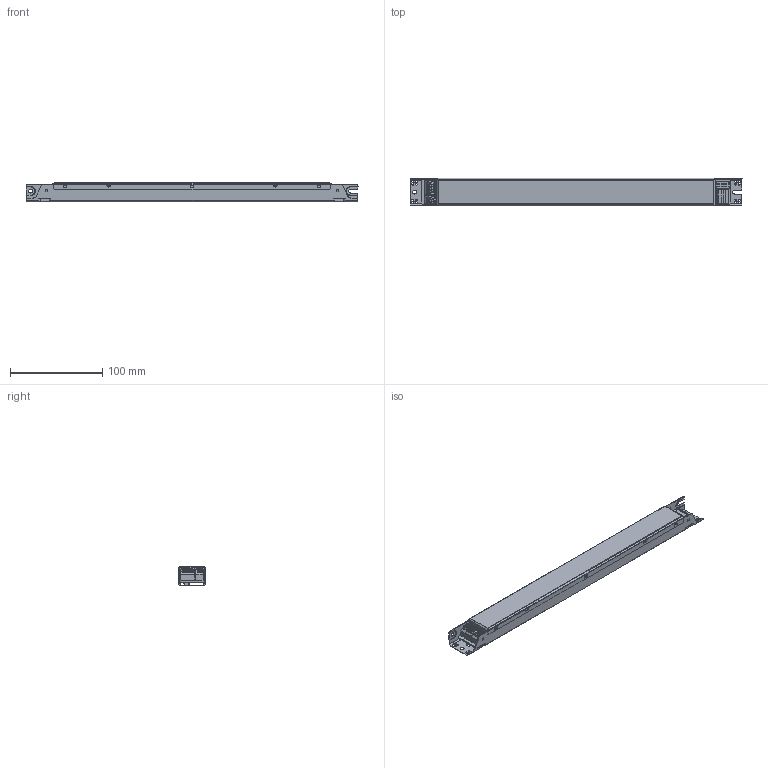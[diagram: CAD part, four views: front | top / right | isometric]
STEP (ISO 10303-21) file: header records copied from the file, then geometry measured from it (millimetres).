
FILE_DESCRIPTION (( 'STEP AP203' ), '1' );
FILE_NAME ('3D_LL80DS-DA-AN-350-1400_without component.STEP', '2024-04-08T18:14:08', ( '' ), ( '' ), 'SwSTEP 2.0', 'SolidWorks 2022', '' );
FILE_SCHEMA (( 'CONFIG_CONTROL_DESIGN' ));
Length unit declared in the file: millimetre
Products named in the file (1): 3D_LL80DS-DA-AN-350-1400_without component
Bounding box: 359 x 30.1 x 21 mm (x, y, z)
Volume: 37429.6 mm3; surface area: 93308.7 mm2
Topology: 7 solids, 7 shells, 874 faces, 2533 edges, 1676 vertices
Faces by surface type: plane 569, cylinder 189, bspline 104, cone 12
Entity records: 35534 total; most frequent: CARTESIAN_POINT 13503, ORIENTED_EDGE 5010, DIRECTION 3959, EDGE_CURVE 2505, LINE 1747, VECTOR 1747, VERTEX_POINT 1676, AXIS2_PLACEMENT_3D 1106
